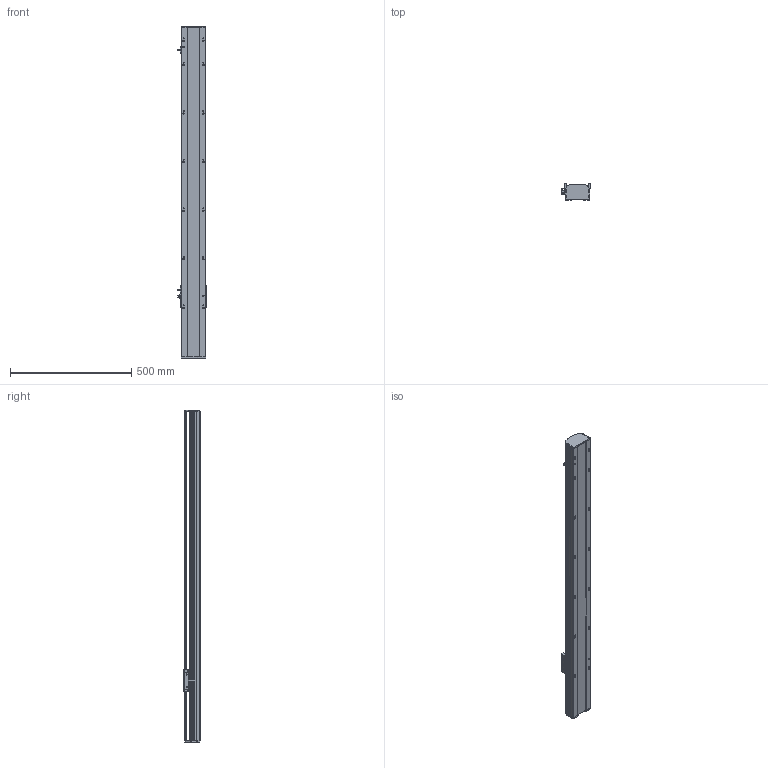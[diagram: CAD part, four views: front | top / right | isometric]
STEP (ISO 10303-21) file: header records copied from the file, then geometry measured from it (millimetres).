
FILE_DESCRIPTION (( 'STEP AP214' ), '1' );
FILE_NAME ('QTH10-1000-M-P10.STEP', '2021-11-13T15:04:11', ( '' ), ( '' ), 'SwSTEP 2.0', 'SolidWorks 2020', '' );
FILE_SCHEMA (( 'AUTOMOTIVE_DESIGN' ));
Length unit declared in the file: millimetre
Products named in the file (5): 葩璃 QTH10-BC-005 賑釱MZ-102A-03 ^QTH10-M-P10; 葩璃 QTH10-M-001 菁釱MZ-102A-01^QTH10-M-P10; 葩璃 pm-t65-672^QTH10-M-P10; 葩璃 QTH10-M-002 奻裔MZ-102A-02^QTH10-M-P10; QTH10-1000-M-P10
Assembly tree (6 placements, depth 2):
  QTH10-1000-M-P10
    葩璃 QTH10-M-001 菁釱MZ-102A-01^QTH10-M-P10
    葩璃 QTH10-M-002 奻裔MZ-102A-02^QTH10-M-P10
    葩璃 QTH10-BC-005 賑釱MZ-102A-03 ^QTH10-M-P10
    葩璃 pm-t65-672^QTH10-M-P10  x3
Bounding box: 117.2 x 66 x 1367 mm (x, y, z)
Volume: 2964785.2 mm3; surface area: 806448.8 mm2
Topology: 10 solids, 10 shells, 855 faces, 2342 edges, 1534 vertices
Faces by surface type: plane 536, cylinder 295, cone 24
Entity records: 21506 total; most frequent: CARTESIAN_POINT 3796, DIRECTION 3470, ORIENTED_EDGE 3360, EDGE_CURVE 1680, AXIS2_PLACEMENT_3D 1204, VERTEX_POINT 1110, LINE 1062, VECTOR 1062
